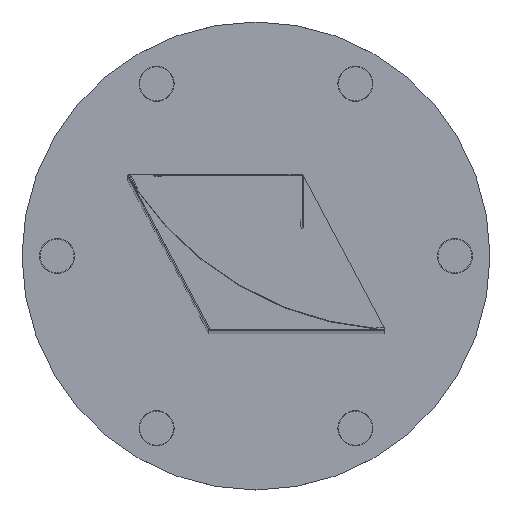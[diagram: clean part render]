
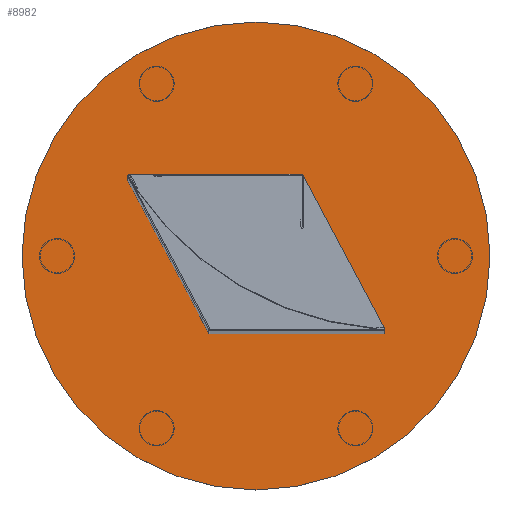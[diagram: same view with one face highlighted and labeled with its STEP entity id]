
A CAD part, top view. The second image highlights one B-rep face of the part: STEP entity #8982.
In plain terms, the highlighted planar face has unit normal (0, 0, 1).
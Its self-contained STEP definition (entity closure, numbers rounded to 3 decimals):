
#323=FACE_BOUND('',#1365,.T.);
#324=FACE_BOUND('',#1366,.T.);
#325=FACE_BOUND('',#1367,.T.);
#326=FACE_BOUND('',#1368,.T.);
#327=FACE_BOUND('',#1369,.T.);
#328=FACE_BOUND('',#1370,.T.);
#364=PLANE('',#9875);
#856=FACE_OUTER_BOUND('',#1364,.T.);
#1364=EDGE_LOOP('',(#6429));
#1365=EDGE_LOOP('',(#6430));
#1366=EDGE_LOOP('',(#6431));
#1367=EDGE_LOOP('',(#6432));
#1368=EDGE_LOOP('',(#6433));
#1369=EDGE_LOOP('',(#6434,#6435,#6436,#6437));
#1370=EDGE_LOOP('',(#6438,#6439,#6440,#6441));
#1895=LINE('',#13206,#2954);
#1899=LINE('',#13216,#2958);
#1903=LINE('',#13230,#2962);
#1907=LINE('',#13240,#2966);
#2954=VECTOR('',#10649,10.);
#2958=VECTOR('',#10661,10.);
#2962=VECTOR('',#10673,10.);
#2966=VECTOR('',#10685,10.);
#4004=CIRCLE('',#9839,2.25);
#4007=CIRCLE('',#9844,2.25);
#4010=CIRCLE('',#9849,3.1);
#4013=CIRCLE('',#9854,3.1);
#4015=CIRCLE('',#9857,17.5);
#4017=CIRCLE('',#9861,17.5);
#4019=CIRCLE('',#9865,10.);
#4021=CIRCLE('',#9869,10.);
#4022=CIRCLE('',#9872,200.);
#4218=VERTEX_POINT('',#13160);
#4221=VERTEX_POINT('',#13170);
#4224=VERTEX_POINT('',#13180);
#4227=VERTEX_POINT('',#13190);
#4230=VERTEX_POINT('',#13197);
#4231=VERTEX_POINT('',#13199);
#4233=VERTEX_POINT('',#13205);
#4235=VERTEX_POINT('',#13211);
#4238=VERTEX_POINT('',#13221);
#4239=VERTEX_POINT('',#13223);
#4241=VERTEX_POINT('',#13229);
#4243=VERTEX_POINT('',#13235);
#4244=VERTEX_POINT('',#13242);
#5055=EDGE_CURVE('',#4218,#4218,#4004,.T.);
#5060=EDGE_CURVE('',#4221,#4221,#4007,.T.);
#5065=EDGE_CURVE('',#4224,#4224,#4010,.T.);
#5070=EDGE_CURVE('',#4227,#4227,#4013,.T.);
#5073=EDGE_CURVE('',#4231,#4230,#4015,.T.);
#5076=EDGE_CURVE('',#4233,#4231,#1895,.T.);
#5079=EDGE_CURVE('',#4235,#4233,#4017,.T.);
#5082=EDGE_CURVE('',#4230,#4235,#1899,.T.);
#5085=EDGE_CURVE('',#4239,#4238,#4019,.T.);
#5088=EDGE_CURVE('',#4241,#4239,#1903,.T.);
#5091=EDGE_CURVE('',#4243,#4241,#4021,.T.);
#5094=EDGE_CURVE('',#4238,#4243,#1907,.T.);
#5095=EDGE_CURVE('',#4244,#4244,#4022,.T.);
#6429=ORIENTED_EDGE('',*,*,#5095,.T.);
#6430=ORIENTED_EDGE('',*,*,#5055,.T.);
#6431=ORIENTED_EDGE('',*,*,#5060,.T.);
#6432=ORIENTED_EDGE('',*,*,#5065,.T.);
#6433=ORIENTED_EDGE('',*,*,#5070,.T.);
#6434=ORIENTED_EDGE('',*,*,#5079,.T.);
#6435=ORIENTED_EDGE('',*,*,#5076,.T.);
#6436=ORIENTED_EDGE('',*,*,#5073,.T.);
#6437=ORIENTED_EDGE('',*,*,#5082,.T.);
#6438=ORIENTED_EDGE('',*,*,#5091,.T.);
#6439=ORIENTED_EDGE('',*,*,#5088,.T.);
#6440=ORIENTED_EDGE('',*,*,#5085,.T.);
#6441=ORIENTED_EDGE('',*,*,#5094,.T.);
#8982=ADVANCED_FACE('',(#856,#323,#324,#325,#326,#327,#328),#364,.T.);
#9839=AXIS2_PLACEMENT_3D('',#13162,#10600,#10601);
#9844=AXIS2_PLACEMENT_3D('',#13172,#10612,#10613);
#9849=AXIS2_PLACEMENT_3D('',#13182,#10624,#10625);
#9854=AXIS2_PLACEMENT_3D('',#13192,#10636,#10637);
#9857=AXIS2_PLACEMENT_3D('',#13200,#10643,#10644);
#9861=AXIS2_PLACEMENT_3D('',#13212,#10655,#10656);
#9865=AXIS2_PLACEMENT_3D('',#13224,#10667,#10668);
#9869=AXIS2_PLACEMENT_3D('',#13236,#10679,#10680);
#9872=AXIS2_PLACEMENT_3D('',#13243,#10688,#10689);
#9875=AXIS2_PLACEMENT_3D('',#13248,#10695,#10696);
#10600=DIRECTION('center_axis',(0.,0.,-1.));
#10601=DIRECTION('ref_axis',(-1.,0.,0.));
#10612=DIRECTION('center_axis',(0.,0.,-1.));
#10613=DIRECTION('ref_axis',(-1.,0.,0.));
#10624=DIRECTION('center_axis',(0.,0.,-1.));
#10625=DIRECTION('ref_axis',(-1.,0.,0.));
#10636=DIRECTION('center_axis',(0.,0.,-1.));
#10637=DIRECTION('ref_axis',(-1.,0.,0.));
#10643=DIRECTION('center_axis',(0.,0.,-1.));
#10644=DIRECTION('ref_axis',(-0.469,0.883,0.));
#10649=DIRECTION('',(-0.883,-0.469,0.));
#10655=DIRECTION('center_axis',(0.,0.,-1.));
#10656=DIRECTION('ref_axis',(0.469,-0.883,0.));
#10661=DIRECTION('',(0.883,0.469,0.));
#10667=DIRECTION('center_axis',(0.,0.,-1.));
#10668=DIRECTION('ref_axis',(0.,1.,0.));
#10673=DIRECTION('',(-1.,0.,0.));
#10679=DIRECTION('center_axis',(0.,0.,-1.));
#10680=DIRECTION('ref_axis',(1.,0.,0.));
#10685=DIRECTION('',(1.,0.,0.));
#10688=DIRECTION('center_axis',(0.,0.,1.));
#10689=DIRECTION('ref_axis',(-1.,0.,0.));
#10695=DIRECTION('center_axis',(0.,0.,1.));
#10696=DIRECTION('ref_axis',(1.,0.,0.));
#13160=CARTESIAN_POINT('',(55.911,54.609,0.));
#13162=CARTESIAN_POINT('Origin',(53.661,54.609,0.));
#13170=CARTESIAN_POINT('',(-49.089,24.609,0.));
#13172=CARTESIAN_POINT('Origin',(-51.339,24.609,0.));
#13180=CARTESIAN_POINT('',(-49.561,66.588,0.));
#13182=CARTESIAN_POINT('Origin',(-52.661,66.588,0.));
#13190=CARTESIAN_POINT('',(38.761,3.641,0.));
#13192=CARTESIAN_POINT('Origin',(35.661,3.641,0.));
#13197=CARTESIAN_POINT('',(-34.956,87.327,0.));
#13199=CARTESIAN_POINT('',(-18.525,56.424,0.));
#13200=CARTESIAN_POINT('Origin',(-26.741,71.876,0.));
#13205=CARTESIAN_POINT('',(53.877,94.921,0.));
#13206=CARTESIAN_POINT('',(20.549,77.2,0.));
#13211=CARTESIAN_POINT('',(37.445,125.824,0.));
#13212=CARTESIAN_POINT('Origin',(45.661,110.372,0.));
#13216=CARTESIAN_POINT('',(-32.084,88.855,0.));
#13221=CARTESIAN_POINT('',(-51.339,49.609,0.));
#13223=CARTESIAN_POINT('',(-51.339,29.609,0.));
#13224=CARTESIAN_POINT('Origin',(-51.339,39.609,0.));
#13229=CARTESIAN_POINT('',(53.661,29.609,0.));
#13230=CARTESIAN_POINT('',(26.83,29.609,0.));
#13235=CARTESIAN_POINT('',(53.661,49.609,0.));
#13236=CARTESIAN_POINT('Origin',(53.661,39.609,0.));
#13240=CARTESIAN_POINT('',(-25.67,49.609,0.));
#13242=CARTESIAN_POINT('',(200.,35.086,0.));
#13243=CARTESIAN_POINT('Origin',(0.,35.086,0.));
#13248=CARTESIAN_POINT('Origin',(0.,35.444,
0.));
